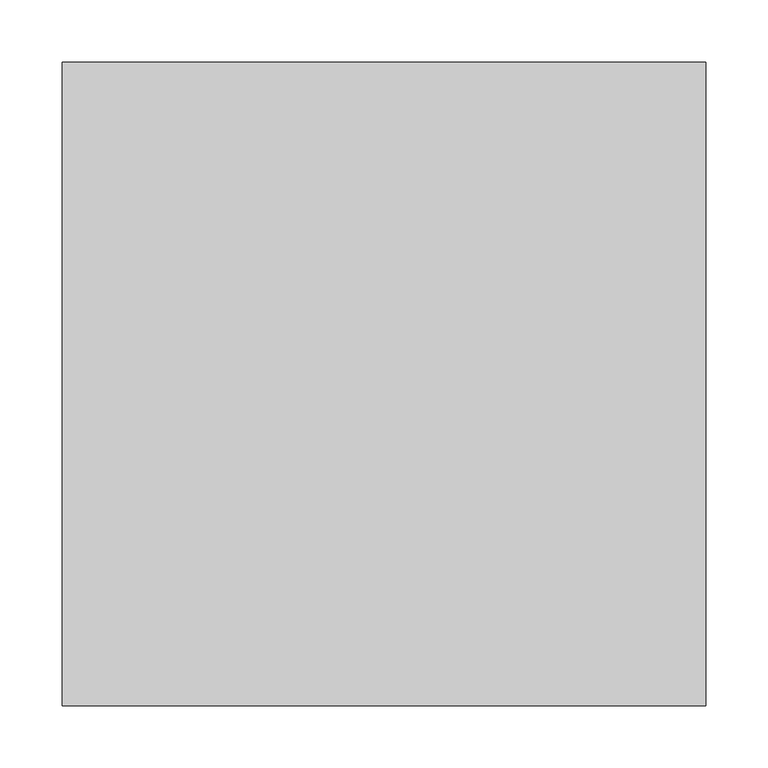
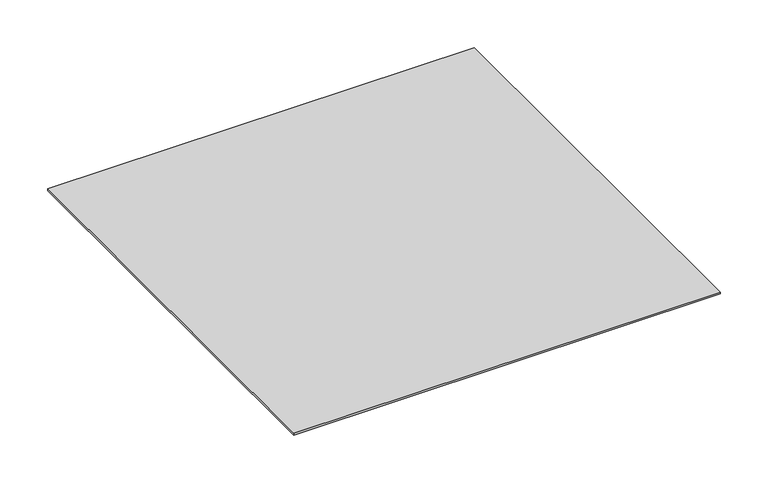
"""IFC4 building model written with IfcOpenShell, lengths in millimetres: proxy geometry, Крышка опалубки сплошная металлическая : Крышка опалубки сплошная металлическая."""

from ifc_helpers import new_model, si_unit, origin, origin_with_axes, place, context, project, spatial, polyline, outline, extrude, source, transform, mapped, element, save


def electrical_fixtures_c1c56b4e(model_context):
    return source(origin(), model_context, "Body", "SweptSolid", [
        extrude(outline(polyline([(257.5, 257.5), (257.5, -257.5), (-257.5, -257.5), (-257.5, 257.5), (257.5, 257.5)])), origin_with_axes(), (0.0, 0.0, 1.0), 2.0),
    ])


if __name__ == "__main__":
    model = new_model("IFC4")
    model_context = context("Model", 3, world=origin())
    ifc_project = project(units=[si_unit("LENGTHUNIT", "METRE", prefix="MILLI")], contexts=[model_context])
    site = spatial("IfcSite", under=ifc_project)
    building = spatial("IfcBuilding", under=site)
    placement = place(None, origin())
    electrical_fixtures_shape = electrical_fixtures_c1c56b4e(model_context)
    element("IfcBuildingElementProxy", 1, Name="Крышка опалубки сплошная металлическая : Крышка опалубки сплошная металлическая", ObjectType="Крышка опалубки сплошная металлическая : Крышка опалубки сплошная металлическая", at=placement, inside=building, context=model_context, shape_type="MappedRepresentation", body=[
        mapped(electrical_fixtures_shape, transform((0.0, 0.0, 0.0), x_axis=(1.0, 0.0, 0.0), y_axis=(0.0, 1.0, 0.0), z_axis=(0.0, 0.0, 1.0))),
    ])
    save(model, "model.ifc")
